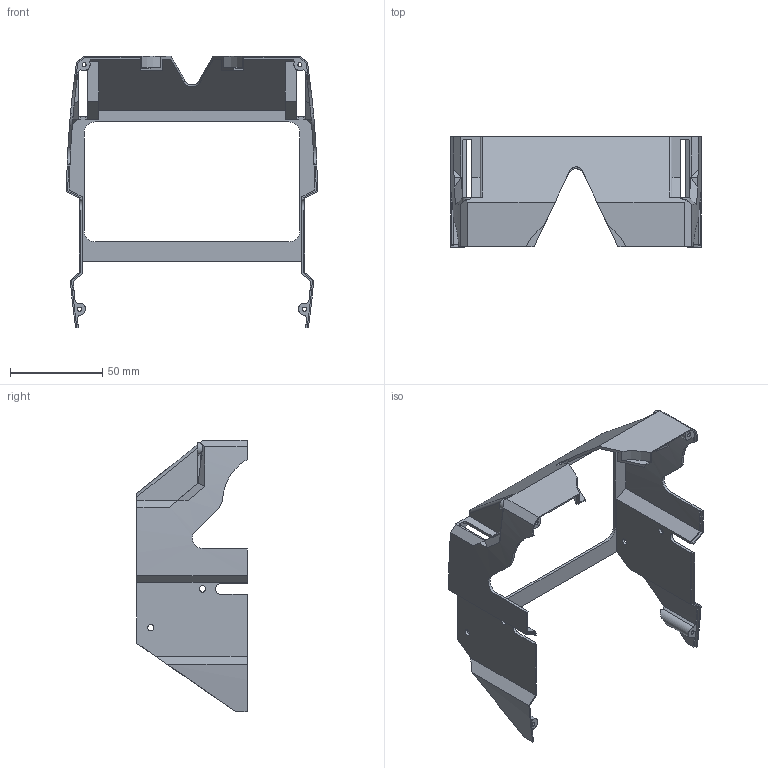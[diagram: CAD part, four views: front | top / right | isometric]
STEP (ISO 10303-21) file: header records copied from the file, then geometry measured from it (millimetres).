
FILE_DESCRIPTION((''),'2;1');
FILE_NAME('OP3_BACK_BODY_CASE_VER1','2017-07-24T',('kimdolyang'),(''),'PRO/ENGINEER BY PARAMETRIC TECHNOLOGY CORPORATION, 2013410','PRO/ENGINEER BY PARAMETRIC TECHNOLOGY CORPORATION, 2013410','');
FILE_SCHEMA(('CONFIG_CONTROL_DESIGN'));
Length unit declared in the file: millimetre
Products named in the file (1): OP3_BACK_BODY_CASE_VER1
Bounding box: 135.97 x 59.75 x 147 mm (x, y, z)
Volume: 36162.6 mm3; surface area: 50385.6 mm2
Topology: 1 solids, 1 shells, 205 faces, 599 edges, 396 vertices
Faces by surface type: plane 123, cylinder 72, cone 6, bspline 4
Entity records: 7169 total; most frequent: CARTESIAN_POINT 1732, ORIENTED_EDGE 1198, DIRECTION 1026, EDGE_CURVE 599, VERTEX_POINT 396, VECTOR 392, LINE 392, AXIS2_PLACEMENT_3D 317
